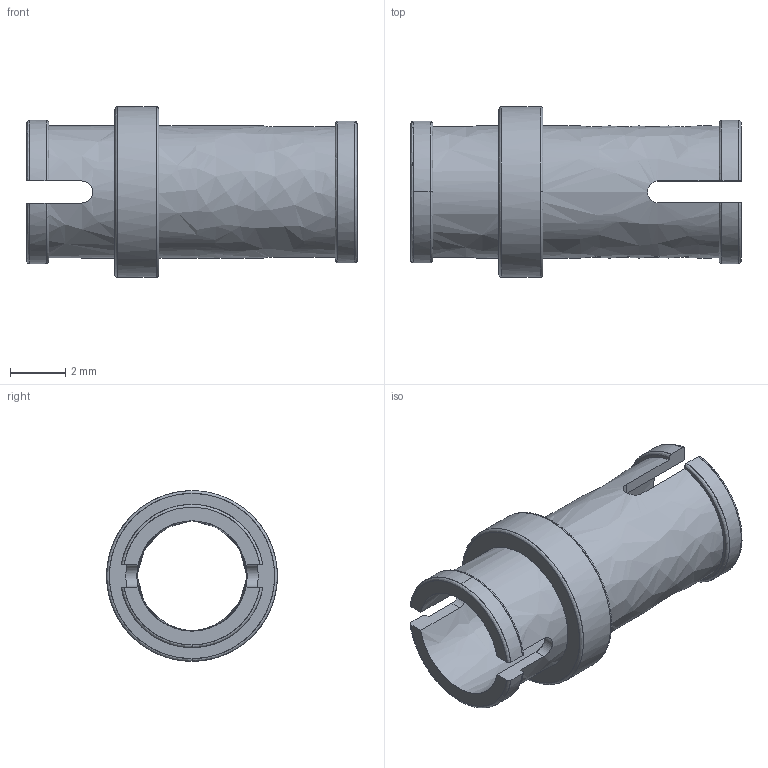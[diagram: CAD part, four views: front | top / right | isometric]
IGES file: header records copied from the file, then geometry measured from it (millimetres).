
Start section: C
Global section: file name: Sand_6013938_MCM.iges; native system: By Siemens PLM Incorporated; preprocessor: XPlus GENERIC/IGES 26.1.183; author: Author; organization: Title; date: 20250722.000513; units: millimetre
Bounding box: 12 x 6.19 x 6.2 mm (x, y, z)
Surface area: 375.7 mm2 (no closed solid volume)
Topology: 0 solids, 0 shells, 45 faces, 412 edges, 412 vertices
Faces by surface type: bspline 45
